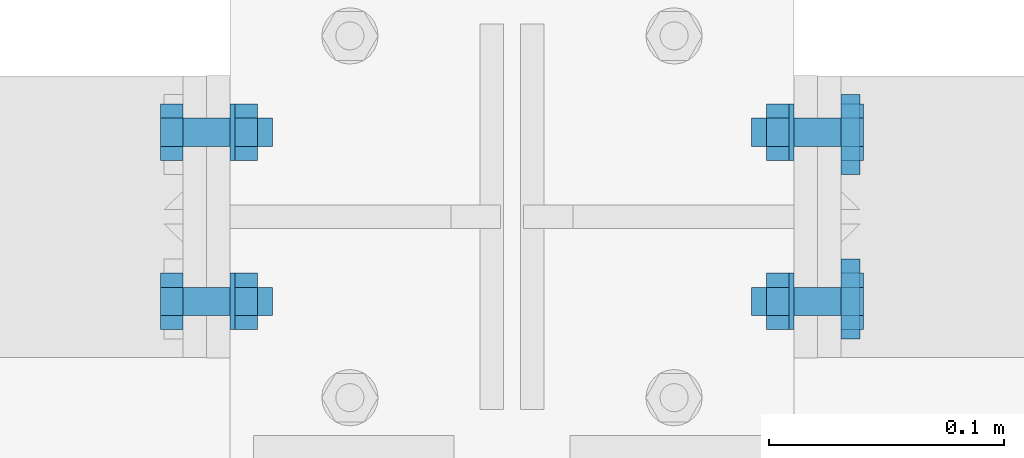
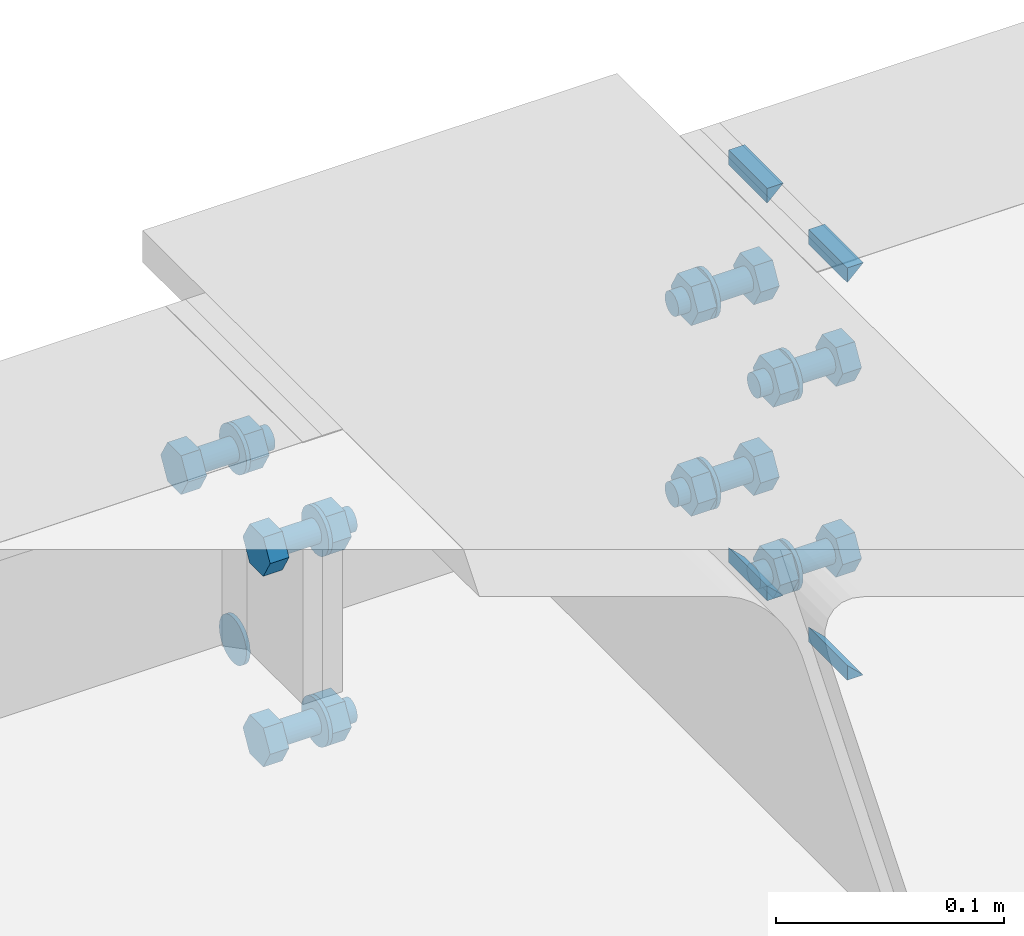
# One storey, part 49 of 66: 29 mechanical fasteners, 8 fasteners.
"""IFC4 building model written with IfcOpenShell, lengths in metres."""

from ifc_helpers import new_model, si_unit, frame, origin_with_axes, place, context, project, spatial, polyline, outline, extrude, type_object, element, save


model = new_model("IFC4")

# Units and contexts
model_context = context("Model", 3, precision=1e-05, world=origin_with_axes())
ifc_project = project(units=[si_unit("LENGTHUNIT", "METRE"), si_unit("AREAUNIT", "SQUARE_METRE"), si_unit("VOLUMEUNIT", "CUBIC_METRE"), si_unit("MASSUNIT", "GRAM", prefix="KILO"), si_unit("TIMEUNIT", "SECOND"), si_unit("PLANEANGLEUNIT", "RADIAN"), si_unit("SOLIDANGLEUNIT", "STERADIAN"), si_unit("THERMODYNAMICTEMPERATUREUNIT", "DEGREE_CELSIUS")], contexts=[model_context])

# Site, building, storey
placement_1 = place(None, origin_with_axes())
site = spatial("IfcSite", under=ifc_project, at=placement_1, Name="Italia", CompositionType="ELEMENT")
building = spatial("IfcBuilding", under=site, at=placement_1, Name="Uffici", CompositionType="ELEMENT")
storey_placement = place(None, frame((0.0, 0.0, 3.299999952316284), z_axis=(0.0, 0.0, 1.0), x_axis=(1.0, 0.0, 0.0)))
storey = spatial("IfcBuildingStorey", under=building, at=storey_placement, Name="Storey 1", CompositionType="ELEMENT", Elevation=3.299999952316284)

# Mechanical fasteners
mechanical_fastener_type_1 = type_object("IfcMechanicalFastenerType", Name="Collegamento 0113_0112", PredefinedType="BOLT")
placement_2 = place(placement_1, origin_with_axes())
mechanical_fastener_1_placement = place(placement_2, origin_with_axes())
element("IfcMechanicalFastener", 1, at=mechanical_fastener_1_placement, inside=storey, type_object=mechanical_fastener_type_1, Name="Collegamento 0113_0112", NominalDiameter=0.024, context=model_context, shape_type="SweptSolid", body=[
    extrude(outline(polyline([(0.0, 0.0), (-0.000409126, -0.00310588), (-0.00160789, -0.00600004), (-0.00351477, -0.00848532), (-0.00600004, -0.0103922), (-0.00889444, -0.0115912), (-0.0120001, -0.0120001), (-0.0151057, -0.0115912), (-0.0180001, -0.0103922), (-0.0204854, -0.00848532), (-0.0223923, -0.00600004), (-0.023591, -0.00310588), (-0.0240002, 0.0), (-0.023591, 0.00310588), (-0.0223923, 0.00600004), (-0.0204854, 0.00848532), (-0.0180001, 0.0103922), (-0.0151057, 0.0115912), (-0.0120001, 0.0120001), (-0.00889444, 0.0115912), (-0.00600004, 0.0103922), (-0.00351477, 0.00848532), (-0.00160789, 0.00600004), (-0.000409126, 0.00310588), (0.0, 0.0)])), frame((6.637, 5.414, 3.129), z_axis=(-1.0, 0.0, 0.0), x_axis=(0.0, -1.0, 0.0)), (0.0, 0.0, 1.0), 0.00199986),
])
mechanical_fastener_type_2 = type_object("IfcMechanicalFastenerType", Name="Collegamento 0113_0112", PredefinedType="BOLT")
mechanical_fastener_2_placement = place(placement_2, origin_with_axes())
element("IfcMechanicalFastener", 2, at=mechanical_fastener_2_placement, inside=storey, type_object=mechanical_fastener_type_2, Name="Collegamento 0113_0112", NominalDiameter=0.0119996, context=model_context, shape_type="SweptSolid", body=[
    extrude(outline(polyline([(0.0, 0.0), (-0.0119996, 0.0), (-0.0179996, 0.0103922), (-0.0119996, 0.0207846), (0.0, 0.0207846), (0.00600004, 0.0103922), (0.0, 0.0)])), frame((6.615, 5.348, 3.11861), z_axis=(-1.0, 0.0, 0.0), x_axis=(0.0, -1.0, 0.0)), (0.0, 0.0, 1.0), 0.00960016),
])
mechanical_fastener_type_3 = type_object("IfcMechanicalFastenerType", Name="Collegamento 0113_0112", PredefinedType="BOLT")
mechanical_fastener_3_placement = place(placement_2, origin_with_axes())
element("IfcMechanicalFastener", 3, at=mechanical_fastener_3_placement, inside=storey, type_object=mechanical_fastener_type_3, Name="Collegamento 0113_0112", NominalDiameter=0.012, context=model_context, shape_type="SweptSolid", body=[
    extrude(outline(polyline([(0.0, 0.0), (-0.000204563, -0.00155282), (-0.000803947, -0.00300002), (-0.00175762, -0.00424266), (-0.00300026, -0.00519609), (-0.00444698, -0.00579548), (-0.00600004, -0.00600004), (-0.0075531, -0.00579548), (-0.00899982, -0.00519609), (-0.0102425, -0.00424266), (-0.0111961, -0.00300002), (-0.0117955, -0.00155282), (-0.0120001, 0.0), (-0.0117955, 0.00155282), (-0.0111961, 0.00300002), (-0.0102425, 0.00424266), (-0.00899982, 0.00519609), (-0.0075531, 0.00579548), (-0.00600004, 0.00600004), (-0.00444698, 0.00579548), (-0.00300026, 0.00519609), (-0.00175762, 0.00424266), (-0.000803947, 0.00300002), (-0.000204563, 0.00155282), (0.0, 0.0)])), frame((6.653, 5.348, 3.129), z_axis=(-1.0, 0.0, 0.0), x_axis=(0.0, -1.0, 0.0)), (0.0, 0.0, 1.0), 0.0380001),
])
mechanical_fastener_type_4 = type_object("IfcMechanicalFastenerType", Name="Collegamento 0113_0112", PredefinedType="BOLT")
mechanical_fastener_4_placement = place(placement_2, origin_with_axes())
element("IfcMechanicalFastener", 4, at=mechanical_fastener_4_placement, inside=storey, type_object=mechanical_fastener_type_4, Name="Collegamento 0113_0112", NominalDiameter=0.0119996, context=model_context, shape_type="SweptSolid", body=[
    extrude(outline(polyline([(0.0, 0.0), (-0.0119996, 0.0), (-0.0179996, 0.0103922), (-0.0119996, 0.0207846), (0.0, 0.0207846), (0.00600004, 0.0103922), (0.0, 0.0)])), frame((6.6466, 5.348, 3.11861), z_axis=(-1.0, 0.0, 0.0), x_axis=(0.0, -1.0, 0.0)), (0.0, 0.0, 1.0), 0.00960016),
])
mechanical_fastener_type_5 = type_object("IfcMechanicalFastenerType", Name="Collegamento 0113_0112", PredefinedType="BOLT")
mechanical_fastener_5_placement = place(placement_2, origin_with_axes())
element("IfcMechanicalFastener", 5, at=mechanical_fastener_5_placement, inside=storey, type_object=mechanical_fastener_type_5, Name="Collegamento 0113_0112", NominalDiameter=0.024, context=model_context, shape_type="SweptSolid", body=[
    extrude(outline(polyline([(0.0, 0.0), (-0.000409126, -0.00310588), (-0.00160789, -0.00600004), (-0.00351477, -0.00848532), (-0.00600004, -0.0103922), (-0.00889444, -0.0115912), (-0.0120001, -0.0120001), (-0.0151057, -0.0115912), (-0.0180001, -0.0103922), (-0.0204854, -0.00848532), (-0.0223923, -0.00600004), (-0.023591, -0.00310588), (-0.0240002, 0.0), (-0.023591, 0.00310588), (-0.0223923, 0.00600004), (-0.0204854, 0.00848532), (-0.0180001, 0.0103922), (-0.0151057, 0.0115912), (-0.0120001, 0.0120001), (-0.00889444, 0.0115912), (-0.00600004, 0.0103922), (-0.00351477, 0.00848532), (-0.00160789, 0.00600004), (-0.000409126, 0.00310588), (0.0, 0.0)])), frame((6.637, 5.342, 3.129), z_axis=(-1.0, 0.0, 0.0), x_axis=(0.0, -1.0, 0.0)), (0.0, 0.0, 1.0), 0.00199986),
])
mechanical_fastener_type_6 = type_object("IfcMechanicalFastenerType", Name="Collegamento 0113_0112", PredefinedType="BOLT")
mechanical_fastener_6_placement = place(placement_2, origin_with_axes())
element("IfcMechanicalFastener", 6, at=mechanical_fastener_6_placement, inside=storey, type_object=mechanical_fastener_type_6, Name="Collegamento 0113_0112", NominalDiameter=0.0119996, context=model_context, shape_type="SweptSolid", body=[
    extrude(outline(polyline([(0.0, 0.0), (-0.0119996, 0.0), (-0.0179996, 0.0103924), (-0.0119996, 0.0207846), (0.0, 0.0207846), (0.00600004, 0.0103924), (0.0, 0.0)])), frame((6.615, 5.42, 3.22061), z_axis=(-1.0, 0.0, 0.0), x_axis=(0.0, -1.0, 0.0)), (0.0, 0.0, 1.0), 0.00960016),
])
mechanical_fastener_type_7 = type_object("IfcMechanicalFastenerType", Name="Collegamento 0113_0112", PredefinedType="BOLT")
mechanical_fastener_7_placement = place(placement_2, origin_with_axes())
element("IfcMechanicalFastener", 7, at=mechanical_fastener_7_placement, inside=storey, type_object=mechanical_fastener_type_7, Name="Collegamento 0113_0112", NominalDiameter=0.012, context=model_context, shape_type="SweptSolid", body=[
    extrude(outline(polyline([(0.0, 0.0), (-0.000204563, -0.00155282), (-0.000803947, -0.00300002), (-0.00175762, -0.00424266), (-0.00300026, -0.00519609), (-0.00444698, -0.00579548), (-0.00600004, -0.00600004), (-0.0075531, -0.00579548), (-0.00899982, -0.00519609), (-0.0102425, -0.00424266), (-0.0111961, -0.00300002), (-0.0117955, -0.00155282), (-0.0120001, 0.0), (-0.0117955, 0.00155282), (-0.0111961, 0.00300002), (-0.0102425, 0.00424266), (-0.00899982, 0.00519609), (-0.0075531, 0.00579548), (-0.00600004, 0.00600004), (-0.00444698, 0.00579548), (-0.00300026, 0.00519609), (-0.00175762, 0.00424266), (-0.000803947, 0.00300002), (-0.000204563, 0.00155282), (0.0, 0.0)])), frame((6.653, 5.42, 3.231), z_axis=(-1.0, 0.0, 0.0), x_axis=(0.0, -1.0, 0.0)), (0.0, 0.0, 1.0), 0.0380001),
])
mechanical_fastener_type_8 = type_object("IfcMechanicalFastenerType", Name="Collegamento 0113_0112", PredefinedType="BOLT")
mechanical_fastener_8_placement = place(placement_2, origin_with_axes())
element("IfcMechanicalFastener", 8, at=mechanical_fastener_8_placement, inside=storey, type_object=mechanical_fastener_type_8, Name="Collegamento 0113_0112", NominalDiameter=0.0119996, context=model_context, shape_type="SweptSolid", body=[
    extrude(outline(polyline([(0.0, 0.0), (-0.0119996, 0.0), (-0.0179996, 0.0103924), (-0.0119996, 0.0207846), (0.0, 0.0207846), (0.00600004, 0.0103924), (0.0, 0.0)])), frame((6.6466, 5.42, 3.22061), z_axis=(-1.0, 0.0, 0.0), x_axis=(0.0, -1.0, 0.0)), (0.0, 0.0, 1.0), 0.00960016),
])
mechanical_fastener_type_9 = type_object("IfcMechanicalFastenerType", Name="Collegamento 0113_0112", PredefinedType="BOLT")
mechanical_fastener_9_placement = place(placement_2, origin_with_axes())
element("IfcMechanicalFastener", 9, at=mechanical_fastener_9_placement, inside=storey, type_object=mechanical_fastener_type_9, Name="Collegamento 0113_0112", NominalDiameter=0.024, context=model_context, shape_type="SweptSolid", body=[
    extrude(outline(polyline([(0.0, 0.0), (-0.000409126, -0.00310588), (-0.00160789, -0.00600004), (-0.00351477, -0.00848532), (-0.00600004, -0.0103922), (-0.00889444, -0.0115912), (-0.0120001, -0.0120001), (-0.0151057, -0.0115912), (-0.0180001, -0.0103922), (-0.0204854, -0.00848532), (-0.0223923, -0.00600004), (-0.023591, -0.00310588), (-0.0240002, 0.0), (-0.023591, 0.00310588), (-0.0223923, 0.00600004), (-0.0204854, 0.00848532), (-0.0180001, 0.0103922), (-0.0151057, 0.0115912), (-0.0120001, 0.0120001), (-0.00889444, 0.0115912), (-0.00600004, 0.0103922), (-0.00351477, 0.00848532), (-0.00160789, 0.00600004), (-0.000409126, 0.00310588), (0.0, 0.0)])), frame((6.637, 5.414, 3.231), z_axis=(-1.0, 0.0, 0.0), x_axis=(0.0, -1.0, 0.0)), (0.0, 0.0, 1.0), 0.00199986),
])
mechanical_fastener_type_10 = type_object("IfcMechanicalFastenerType", Name="Collegamento 0113_0112", PredefinedType="BOLT")
mechanical_fastener_10_placement = place(placement_2, origin_with_axes())
element("IfcMechanicalFastener", 10, at=mechanical_fastener_10_placement, inside=storey, type_object=mechanical_fastener_type_10, Name="Collegamento 0113_0112", NominalDiameter=0.0119996, context=model_context, shape_type="SweptSolid", body=[
    extrude(outline(polyline([(0.0, 0.0), (-0.0119996, 0.0), (-0.0179996, 0.0103924), (-0.0119996, 0.0207846), (0.0, 0.0207846), (0.00600004, 0.0103924), (0.0, 0.0)])), frame((6.615, 5.348, 3.22061), z_axis=(-1.0, 0.0, 0.0), x_axis=(0.0, -1.0, 0.0)), (0.0, 0.0, 1.0), 0.00960016),
])
mechanical_fastener_type_11 = type_object("IfcMechanicalFastenerType", Name="Collegamento 0113_0112", PredefinedType="BOLT")
mechanical_fastener_11_placement = place(placement_2, origin_with_axes())
element("IfcMechanicalFastener", 11, at=mechanical_fastener_11_placement, inside=storey, type_object=mechanical_fastener_type_11, Name="Collegamento 0113_0112", NominalDiameter=0.012, context=model_context, shape_type="SweptSolid", body=[
    extrude(outline(polyline([(0.0, 0.0), (-0.000204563, -0.00155282), (-0.000803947, -0.00300002), (-0.00175762, -0.00424266), (-0.00300026, -0.00519609), (-0.00444698, -0.00579548), (-0.00600004, -0.00600004), (-0.0075531, -0.00579548), (-0.00899982, -0.00519609), (-0.0102425, -0.00424266), (-0.0111961, -0.00300002), (-0.0117955, -0.00155282), (-0.0120001, 0.0), (-0.0117955, 0.00155282), (-0.0111961, 0.00300002), (-0.0102425, 0.00424266), (-0.00899982, 0.00519609), (-0.0075531, 0.00579548), (-0.00600004, 0.00600004), (-0.00444698, 0.00579548), (-0.00300026, 0.00519609), (-0.00175762, 0.00424266), (-0.000803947, 0.00300002), (-0.000204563, 0.00155282), (0.0, 0.0)])), frame((6.653, 5.348, 3.231), z_axis=(-1.0, 0.0, 0.0), x_axis=(0.0, -1.0, 0.0)), (0.0, 0.0, 1.0), 0.0380001),
])
mechanical_fastener_type_12 = type_object("IfcMechanicalFastenerType", Name="Collegamento 0113_0112", PredefinedType="BOLT")
mechanical_fastener_12_placement = place(placement_2, origin_with_axes())
element("IfcMechanicalFastener", 12, at=mechanical_fastener_12_placement, inside=storey, type_object=mechanical_fastener_type_12, Name="Collegamento 0113_0112", NominalDiameter=0.0119996, context=model_context, shape_type="SweptSolid", body=[
    extrude(outline(polyline([(0.0, 0.0), (-0.0119996, 0.0), (-0.0179996, 0.0103924), (-0.0119996, 0.0207846), (0.0, 0.0207846), (0.00600004, 0.0103924), (0.0, 0.0)])), frame((6.6466, 5.348, 3.22061), z_axis=(-1.0, 0.0, 0.0), x_axis=(0.0, -1.0, 0.0)), (0.0, 0.0, 1.0), 0.00960016),
])
mechanical_fastener_type_13 = type_object("IfcMechanicalFastenerType", Name="Collegamento 0113_0112", PredefinedType="BOLT")
mechanical_fastener_13_placement = place(placement_2, origin_with_axes())
element("IfcMechanicalFastener", 13, at=mechanical_fastener_13_placement, inside=storey, type_object=mechanical_fastener_type_13, Name="Collegamento 0113_0112", NominalDiameter=0.024, context=model_context, shape_type="SweptSolid", body=[
    extrude(outline(polyline([(0.0, 0.0), (-0.000409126, -0.00310588), (-0.00160789, -0.00600004), (-0.00351477, -0.00848532), (-0.00600004, -0.0103922), (-0.00889444, -0.0115912), (-0.0120001, -0.0120001), (-0.0151057, -0.0115912), (-0.0180001, -0.0103922), (-0.0204854, -0.00848532), (-0.0223923, -0.00600004), (-0.023591, -0.00310588), (-0.0240002, 0.0), (-0.023591, 0.00310588), (-0.0223923, 0.00600004), (-0.0204854, 0.00848532), (-0.0180001, 0.0103922), (-0.0151057, 0.0115912), (-0.0120001, 0.0120001), (-0.00889444, 0.0115912), (-0.00600004, 0.0103922), (-0.00351477, 0.00848532), (-0.00160789, 0.00600004), (-0.000409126, 0.00310588), (0.0, 0.0)])), frame((6.637, 5.342, 3.231), z_axis=(-1.0, 0.0, 0.0), x_axis=(0.0, -1.0, 0.0)), (0.0, 0.0, 1.0), 0.00199986),
])

# Fasteners
fastener_type_1 = type_object("IfcFastenerType", Name="Collegamento 0113_0114", PredefinedType="WELD")
fastener_1_placement = place(placement_2, origin_with_axes())
element("IfcFastener", 14, at=fastener_1_placement, inside=storey, type_object=fastener_type_1, Name="Collegamento 0113_0114", context=model_context, shape_type="SweptSolid", body=[
    extrude(outline(polyline([(0.0, 0.0), (-0.00817347, 0.00792813), (0.0, 0.00792813), (0.0, 0.0)])), frame((6.89495, 5.33795, 3.28232), z_axis=(0.0, 1.0, 0.0), x_axis=(-1.0, 0.0, 0.0)), (0.0, 0.0, 1.0), 0.0340004),
])
fastener_type_2 = type_object("IfcFastenerType", Name="Collegamento 0113_0114", PredefinedType="WELD")
fastener_2_placement = place(placement_2, origin_with_axes())
element("IfcFastener", 15, at=fastener_2_placement, inside=storey, type_object=fastener_type_2, Name="Collegamento 0113_0114", context=model_context, shape_type="SweptSolid", body=[
    extrude(outline(polyline([(0.0, 0.0), (0.00817347, -0.00792813), (0.0, -0.00792813), (0.0, 0.0)])), frame((6.89495, 5.37195, 3.07768), z_axis=(0.0, -1.0, 0.0), x_axis=(1.0, 0.0, 0.0)), (0.0, 0.0, 1.0), 0.0340004),
])
fastener_type_3 = type_object("IfcFastenerType", Name="Collegamento 0113_0114", PredefinedType="WELD")
fastener_3_placement = place(placement_2, origin_with_axes())
element("IfcFastener", 16, at=fastener_3_placement, inside=storey, type_object=fastener_type_3, Name="Collegamento 0113_0114", context=model_context, shape_type="SweptSolid", body=[
    extrude(outline(polyline([(0.0, 0.0), (0.00817347, -0.00792813), (0.0, -0.00792813), (0.0, 0.0)])), frame((6.89495, 5.44205, 3.07768), z_axis=(0.0, -1.0, 0.0), x_axis=(1.0, 0.0, 0.0)), (0.0, 0.0, 1.0), 0.0340004),
])
fastener_type_4 = type_object("IfcFastenerType", Name="Collegamento 0113_0114", PredefinedType="WELD")
fastener_4_placement = place(placement_2, origin_with_axes())
element("IfcFastener", 17, at=fastener_4_placement, inside=storey, type_object=fastener_type_4, Name="Collegamento 0113_0114", context=model_context, shape_type="SweptSolid", body=[
    extrude(outline(polyline([(0.0, 0.0), (-0.00817347, 0.00792813), (0.0, 0.00792813), (0.0, 0.0)])), frame((6.89495, 5.40805, 3.28232), z_axis=(0.0, 1.0, 0.0), x_axis=(-1.0, 0.0, 0.0)), (0.0, 0.0, 1.0), 0.0340004),
])
fastener_type_5 = type_object("IfcFastenerType", Name="Collegamento 0113_0114", PredefinedType="WELD")
fastener_5_placement = place(placement_2, origin_with_axes())
element("IfcFastener", 18, at=fastener_5_placement, inside=storey, type_object=fastener_type_5, Name="Collegamento 0113_0114", context=model_context, shape_type="SweptSolid", body=[
    extrude(outline(polyline([(0.0, 0.0), (-0.00817347, 0.00792813), (0.0, 0.00792813), (0.0, 0.0)])), frame((6.89495, 5.33795, 3.28232), z_axis=(0.0, 1.0, 0.0), x_axis=(-1.0, 0.0, 0.0)), (0.0, 0.0, 1.0), 0.0340004),
])
fastener_type_6 = type_object("IfcFastenerType", Name="Collegamento 0113_0114", PredefinedType="WELD")
fastener_6_placement = place(placement_2, origin_with_axes())
element("IfcFastener", 19, at=fastener_6_placement, inside=storey, type_object=fastener_type_6, Name="Collegamento 0113_0114", context=model_context, shape_type="SweptSolid", body=[
    extrude(outline(polyline([(0.0, 0.0), (0.00817347, -0.00792813), (0.0, -0.00792813), (0.0, 0.0)])), frame((6.89495, 5.37195, 3.07768), z_axis=(0.0, -1.0, 0.0), x_axis=(1.0, 0.0, 0.0)), (0.0, 0.0, 1.0), 0.0340004),
])
fastener_type_7 = type_object("IfcFastenerType", Name="Collegamento 0113_0114", PredefinedType="WELD")
fastener_7_placement = place(placement_2, origin_with_axes())
element("IfcFastener", 20, at=fastener_7_placement, inside=storey, type_object=fastener_type_7, Name="Collegamento 0113_0114", context=model_context, shape_type="SweptSolid", body=[
    extrude(outline(polyline([(0.0, 0.0), (0.00817347, -0.00792813), (0.0, -0.00792813), (0.0, 0.0)])), frame((6.89495, 5.44205, 3.07768), z_axis=(0.0, -1.0, 0.0), x_axis=(1.0, 0.0, 0.0)), (0.0, 0.0, 1.0), 0.0340004),
])
fastener_type_8 = type_object("IfcFastenerType", Name="Collegamento 0113_0114", PredefinedType="WELD")
fastener_8_placement = place(placement_2, origin_with_axes())
element("IfcFastener", 21, at=fastener_8_placement, inside=storey, type_object=fastener_type_8, Name="Collegamento 0113_0114", context=model_context, shape_type="SweptSolid", body=[
    extrude(outline(polyline([(0.0, 0.0), (-0.00817347, 0.00792813), (0.0, 0.00792813), (0.0, 0.0)])), frame((6.89495, 5.40805, 3.28232), z_axis=(0.0, 1.0, 0.0), x_axis=(-1.0, 0.0, 0.0)), (0.0, 0.0, 1.0), 0.0340004),
])

# Mechanical fasteners
mechanical_fastener_type_14 = type_object("IfcMechanicalFastenerType", Name="Collegamento 0113_0114", PredefinedType="BOLT")
mechanical_fastener_14_placement = place(placement_2, origin_with_axes())
element("IfcMechanicalFastener", 22, at=mechanical_fastener_14_placement, inside=storey, type_object=mechanical_fastener_type_14, Name="Collegamento 0113_0114", NominalDiameter=0.0119996, context=model_context, shape_type="SweptSolid", body=[
    extrude(outline(polyline([(0.0, 0.0), (-0.0119996, 0.0), (-0.0179996, 0.0103922), (-0.0119996, 0.0207846), (0.0, 0.0207846), (0.00600004, 0.0103922), (0.0, 0.0)])), frame((6.895, 5.36, 3.11861), z_axis=(1.0, 0.0, 0.0), x_axis=(0.0, 1.0, 0.0)), (0.0, 0.0, 1.0), 0.00960016),
])
mechanical_fastener_type_15 = type_object("IfcMechanicalFastenerType", Name="Collegamento 0113_0114", PredefinedType="BOLT")
mechanical_fastener_15_placement = place(placement_2, origin_with_axes())
element("IfcMechanicalFastener", 23, at=mechanical_fastener_15_placement, inside=storey, type_object=mechanical_fastener_type_15, Name="Collegamento 0113_0114", NominalDiameter=0.012, context=model_context, shape_type="SweptSolid", body=[
    extrude(outline(polyline([(0.0, 0.0), (-0.000204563, -0.00155282), (-0.000803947, -0.00300002), (-0.00175762, -0.00424266), (-0.00300026, -0.00519609), (-0.00444698, -0.00579548), (-0.00600004, -0.00600004), (-0.0075531, -0.00579548), (-0.00899982, -0.00519609), (-0.0102425, -0.00424266), (-0.0111961, -0.00300002), (-0.0117955, -0.00155282), (-0.0120001, 0.0), (-0.0117955, 0.00155282), (-0.0111961, 0.00300002), (-0.0102425, 0.00424266), (-0.00899982, 0.00519609), (-0.0075531, 0.00579548), (-0.00600004, 0.00600004), (-0.00444698, 0.00579548), (-0.00300026, 0.00519609), (-0.00175762, 0.00424266), (-0.000803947, 0.00300002), (-0.000204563, 0.00155282), (0.0, 0.0)])), frame((6.857, 5.36, 3.129), z_axis=(1.0, 0.0, 0.0), x_axis=(0.0, 1.0, 0.0)), (0.0, 0.0, 1.0), 0.0380001),
])
mechanical_fastener_type_16 = type_object("IfcMechanicalFastenerType", Name="Collegamento 0113_0114", PredefinedType="BOLT")
mechanical_fastener_16_placement = place(placement_2, origin_with_axes())
element("IfcMechanicalFastener", 24, at=mechanical_fastener_16_placement, inside=storey, type_object=mechanical_fastener_type_16, Name="Collegamento 0113_0114", NominalDiameter=0.0119996, context=model_context, shape_type="SweptSolid", body=[
    extrude(outline(polyline([(0.0, 0.0), (-0.0119996, 0.0), (-0.0179996, 0.0103922), (-0.0119996, 0.0207846), (0.0, 0.0207846), (0.00600004, 0.0103922), (0.0, 0.0)])), frame((6.8634, 5.36, 3.11861), z_axis=(1.0, 0.0, 0.0), x_axis=(0.0, 1.0, 0.0)), (0.0, 0.0, 1.0), 0.00960016),
])
mechanical_fastener_type_17 = type_object("IfcMechanicalFastenerType", Name="Collegamento 0113_0114", PredefinedType="BOLT")
mechanical_fastener_17_placement = place(placement_2, origin_with_axes())
element("IfcMechanicalFastener", 25, at=mechanical_fastener_17_placement, inside=storey, type_object=mechanical_fastener_type_17, Name="Collegamento 0113_0114", NominalDiameter=0.024, context=model_context, shape_type="SweptSolid", body=[
    extrude(outline(polyline([(0.0, 0.0), (-0.000409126, -0.00310588), (-0.00160789, -0.00600004), (-0.00351477, -0.00848532), (-0.00600004, -0.0103922), (-0.00889444, -0.0115912), (-0.0120001, -0.0120001), (-0.0151057, -0.0115912), (-0.0180001, -0.0103922), (-0.0204854, -0.00848532), (-0.0223923, -0.00600004), (-0.023591, -0.00310588), (-0.0240002, 0.0), (-0.023591, 0.00310588), (-0.0223923, 0.00600004), (-0.0204854, 0.00848532), (-0.0180001, 0.0103922), (-0.0151057, 0.0115912), (-0.0120001, 0.0120001), (-0.00889444, 0.0115912), (-0.00600004, 0.0103922), (-0.00351477, 0.00848532), (-0.00160789, 0.00600004), (-0.000409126, 0.00310588), (0.0, 0.0)])), frame((6.873, 5.366, 3.129), z_axis=(1.0, 0.0, 0.0), x_axis=(0.0, 1.0, 0.0)), (0.0, 0.0, 1.0), 0.00199986),
])
mechanical_fastener_type_18 = type_object("IfcMechanicalFastenerType", Name="Collegamento 0113_0114", PredefinedType="BOLT")
mechanical_fastener_18_placement = place(placement_2, origin_with_axes())
element("IfcMechanicalFastener", 26, at=mechanical_fastener_18_placement, inside=storey, type_object=mechanical_fastener_type_18, Name="Collegamento 0113_0114", NominalDiameter=0.0119996, context=model_context, shape_type="SweptSolid", body=[
    extrude(outline(polyline([(0.0, 0.0), (-0.0119996, 0.0), (-0.0179996, 0.0103922), (-0.0119996, 0.0207846), (0.0, 0.0207846), (0.00600004, 0.0103922), (0.0, 0.0)])), frame((6.895, 5.432, 3.11861), z_axis=(1.0, 0.0, 0.0), x_axis=(0.0, 1.0, 0.0)), (0.0, 0.0, 1.0), 0.00960016),
])
mechanical_fastener_type_19 = type_object("IfcMechanicalFastenerType", Name="Collegamento 0113_0114", PredefinedType="BOLT")
mechanical_fastener_19_placement = place(placement_2, origin_with_axes())
element("IfcMechanicalFastener", 27, at=mechanical_fastener_19_placement, inside=storey, type_object=mechanical_fastener_type_19, Name="Collegamento 0113_0114", NominalDiameter=0.012, context=model_context, shape_type="SweptSolid", body=[
    extrude(outline(polyline([(0.0, 0.0), (-0.000204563, -0.00155282), (-0.000803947, -0.00300002), (-0.00175762, -0.00424266), (-0.00300026, -0.00519609), (-0.00444698, -0.00579548), (-0.00600004, -0.00600004), (-0.0075531, -0.00579548), (-0.00899982, -0.00519609), (-0.0102425, -0.00424266), (-0.0111961, -0.00300002), (-0.0117955, -0.00155282), (-0.0120001, 0.0), (-0.0117955, 0.00155282), (-0.0111961, 0.00300002), (-0.0102425, 0.00424266), (-0.00899982, 0.00519609), (-0.0075531, 0.00579548), (-0.00600004, 0.00600004), (-0.00444698, 0.00579548), (-0.00300026, 0.00519609), (-0.00175762, 0.00424266), (-0.000803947, 0.00300002), (-0.000204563, 0.00155282), (0.0, 0.0)])), frame((6.857, 5.432, 3.129), z_axis=(1.0, 0.0, 0.0), x_axis=(0.0, 1.0, 0.0)), (0.0, 0.0, 1.0), 0.0380001),
])
mechanical_fastener_type_20 = type_object("IfcMechanicalFastenerType", Name="Collegamento 0113_0114", PredefinedType="BOLT")
mechanical_fastener_20_placement = place(placement_2, origin_with_axes())
element("IfcMechanicalFastener", 28, at=mechanical_fastener_20_placement, inside=storey, type_object=mechanical_fastener_type_20, Name="Collegamento 0113_0114", NominalDiameter=0.0119996, context=model_context, shape_type="SweptSolid", body=[
    extrude(outline(polyline([(0.0, 0.0), (-0.0119996, 0.0), (-0.0179996, 0.0103922), (-0.0119996, 0.0207846), (0.0, 0.0207846), (0.00600004, 0.0103922), (0.0, 0.0)])), frame((6.8634, 5.432, 3.11861), z_axis=(1.0, 0.0, 0.0), x_axis=(0.0, 1.0, 0.0)), (0.0, 0.0, 1.0), 0.00960016),
])
mechanical_fastener_type_21 = type_object("IfcMechanicalFastenerType", Name="Collegamento 0113_0114", PredefinedType="BOLT")
mechanical_fastener_21_placement = place(placement_2, origin_with_axes())
element("IfcMechanicalFastener", 29, at=mechanical_fastener_21_placement, inside=storey, type_object=mechanical_fastener_type_21, Name="Collegamento 0113_0114", NominalDiameter=0.024, context=model_context, shape_type="SweptSolid", body=[
    extrude(outline(polyline([(0.0, 0.0), (-0.000409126, -0.00310588), (-0.00160789, -0.00600004), (-0.00351477, -0.00848532), (-0.00600004, -0.0103922), (-0.00889444, -0.0115912), (-0.0120001, -0.0120001), (-0.0151057, -0.0115912), (-0.0180001, -0.0103922), (-0.0204854, -0.00848532), (-0.0223923, -0.00600004), (-0.023591, -0.00310588), (-0.0240002, 0.0), (-0.023591, 0.00310588), (-0.0223923, 0.00600004), (-0.0204854, 0.00848532), (-0.0180001, 0.0103922), (-0.0151057, 0.0115912), (-0.0120001, 0.0120001), (-0.00889444, 0.0115912), (-0.00600004, 0.0103922), (-0.00351477, 0.00848532), (-0.00160789, 0.00600004), (-0.000409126, 0.00310588), (0.0, 0.0)])), frame((6.873, 5.438, 3.129), z_axis=(1.0, 0.0, 0.0), x_axis=(0.0, 1.0, 0.0)), (0.0, 0.0, 1.0), 0.00199986),
])
mechanical_fastener_type_22 = type_object("IfcMechanicalFastenerType", Name="Collegamento 0113_0114", PredefinedType="BOLT")
mechanical_fastener_22_placement = place(placement_2, origin_with_axes())
element("IfcMechanicalFastener", 30, at=mechanical_fastener_22_placement, inside=storey, type_object=mechanical_fastener_type_22, Name="Collegamento 0113_0114", NominalDiameter=0.0119996, context=model_context, shape_type="SweptSolid", body=[
    extrude(outline(polyline([(0.0, 0.0), (-0.0119996, 0.0), (-0.0179996, 0.0103924), (-0.0119996, 0.0207846), (0.0, 0.0207846), (0.00600004, 0.0103924), (0.0, 0.0)])), frame((6.895, 5.36, 3.22061), z_axis=(1.0, 0.0, 0.0), x_axis=(0.0, 1.0, 0.0)), (0.0, 0.0, 1.0), 0.00960016),
])
mechanical_fastener_type_23 = type_object("IfcMechanicalFastenerType", Name="Collegamento 0113_0114", PredefinedType="BOLT")
mechanical_fastener_23_placement = place(placement_2, origin_with_axes())
element("IfcMechanicalFastener", 31, at=mechanical_fastener_23_placement, inside=storey, type_object=mechanical_fastener_type_23, Name="Collegamento 0113_0114", NominalDiameter=0.012, context=model_context, shape_type="SweptSolid", body=[
    extrude(outline(polyline([(0.0, 0.0), (-0.000204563, -0.00155282), (-0.000803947, -0.00300002), (-0.00175762, -0.00424266), (-0.00300026, -0.00519609), (-0.00444698, -0.00579548), (-0.00600004, -0.00600004), (-0.0075531, -0.00579548), (-0.00899982, -0.00519609), (-0.0102425, -0.00424266), (-0.0111961, -0.00300002), (-0.0117955, -0.00155282), (-0.0120001, 0.0), (-0.0117955, 0.00155282), (-0.0111961, 0.00300002), (-0.0102425, 0.00424266), (-0.00899982, 0.00519609), (-0.0075531, 0.00579548), (-0.00600004, 0.00600004), (-0.00444698, 0.00579548), (-0.00300026, 0.00519609), (-0.00175762, 0.00424266), (-0.000803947, 0.00300002), (-0.000204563, 0.00155282), (0.0, 0.0)])), frame((6.857, 5.36, 3.231), z_axis=(1.0, 0.0, 0.0), x_axis=(0.0, 1.0, 0.0)), (0.0, 0.0, 1.0), 0.0380001),
])
mechanical_fastener_type_24 = type_object("IfcMechanicalFastenerType", Name="Collegamento 0113_0114", PredefinedType="BOLT")
mechanical_fastener_24_placement = place(placement_2, origin_with_axes())
element("IfcMechanicalFastener", 32, at=mechanical_fastener_24_placement, inside=storey, type_object=mechanical_fastener_type_24, Name="Collegamento 0113_0114", NominalDiameter=0.0119996, context=model_context, shape_type="SweptSolid", body=[
    extrude(outline(polyline([(0.0, 0.0), (-0.0119996, 0.0), (-0.0179996, 0.0103924), (-0.0119996, 0.0207846), (0.0, 0.0207846), (0.00600004, 0.0103924), (0.0, 0.0)])), frame((6.8634, 5.36, 3.22061), z_axis=(1.0, 0.0, 0.0), x_axis=(0.0, 1.0, 0.0)), (0.0, 0.0, 1.0), 0.00960016),
])
mechanical_fastener_type_25 = type_object("IfcMechanicalFastenerType", Name="Collegamento 0113_0114", PredefinedType="BOLT")
mechanical_fastener_25_placement = place(placement_2, origin_with_axes())
element("IfcMechanicalFastener", 33, at=mechanical_fastener_25_placement, inside=storey, type_object=mechanical_fastener_type_25, Name="Collegamento 0113_0114", NominalDiameter=0.024, context=model_context, shape_type="SweptSolid", body=[
    extrude(outline(polyline([(0.0, 0.0), (-0.000409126, -0.00310588), (-0.00160789, -0.00600004), (-0.00351477, -0.00848532), (-0.00600004, -0.0103922), (-0.00889444, -0.0115912), (-0.0120001, -0.0120001), (-0.0151057, -0.0115912), (-0.0180001, -0.0103922), (-0.0204854, -0.00848532), (-0.0223923, -0.00600004), (-0.023591, -0.00310588), (-0.0240002, 0.0), (-0.023591, 0.00310588), (-0.0223923, 0.00600004), (-0.0204854, 0.00848532), (-0.0180001, 0.0103922), (-0.0151057, 0.0115912), (-0.0120001, 0.0120001), (-0.00889444, 0.0115912), (-0.00600004, 0.0103922), (-0.00351477, 0.00848532), (-0.00160789, 0.00600004), (-0.000409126, 0.00310588), (0.0, 0.0)])), frame((6.873, 5.366, 3.231), z_axis=(1.0, 0.0, 0.0), x_axis=(0.0, 1.0, 0.0)), (0.0, 0.0, 1.0), 0.00199986),
])
mechanical_fastener_type_26 = type_object("IfcMechanicalFastenerType", Name="Collegamento 0113_0114", PredefinedType="BOLT")
mechanical_fastener_26_placement = place(placement_2, origin_with_axes())
element("IfcMechanicalFastener", 34, at=mechanical_fastener_26_placement, inside=storey, type_object=mechanical_fastener_type_26, Name="Collegamento 0113_0114", NominalDiameter=0.0119996, context=model_context, shape_type="SweptSolid", body=[
    extrude(outline(polyline([(0.0, 0.0), (-0.0119996, 0.0), (-0.0179996, 0.0103924), (-0.0119996, 0.0207846), (0.0, 0.0207846), (0.00600004, 0.0103924), (0.0, 0.0)])), frame((6.895, 5.432, 3.22061), z_axis=(1.0, 0.0, 0.0), x_axis=(0.0, 1.0, 0.0)), (0.0, 0.0, 1.0), 0.00960016),
])
mechanical_fastener_type_27 = type_object("IfcMechanicalFastenerType", Name="Collegamento 0113_0114", PredefinedType="BOLT")
mechanical_fastener_27_placement = place(placement_2, origin_with_axes())
element("IfcMechanicalFastener", 35, at=mechanical_fastener_27_placement, inside=storey, type_object=mechanical_fastener_type_27, Name="Collegamento 0113_0114", NominalDiameter=0.012, context=model_context, shape_type="SweptSolid", body=[
    extrude(outline(polyline([(0.0, 0.0), (-0.000204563, -0.00155282), (-0.000803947, -0.00300002), (-0.00175762, -0.00424266), (-0.00300026, -0.00519609), (-0.00444698, -0.00579548), (-0.00600004, -0.00600004), (-0.0075531, -0.00579548), (-0.00899982, -0.00519609), (-0.0102425, -0.00424266), (-0.0111961, -0.00300002), (-0.0117955, -0.00155282), (-0.0120001, 0.0), (-0.0117955, 0.00155282), (-0.0111961, 0.00300002), (-0.0102425, 0.00424266), (-0.00899982, 0.00519609), (-0.0075531, 0.00579548), (-0.00600004, 0.00600004), (-0.00444698, 0.00579548), (-0.00300026, 0.00519609), (-0.00175762, 0.00424266), (-0.000803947, 0.00300002), (-0.000204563, 0.00155282), (0.0, 0.0)])), frame((6.857, 5.432, 3.231), z_axis=(1.0, 0.0, 0.0), x_axis=(0.0, 1.0, 0.0)), (0.0, 0.0, 1.0), 0.0380001),
])
mechanical_fastener_type_28 = type_object("IfcMechanicalFastenerType", Name="Collegamento 0113_0114", PredefinedType="BOLT")
mechanical_fastener_28_placement = place(placement_2, origin_with_axes())
element("IfcMechanicalFastener", 36, at=mechanical_fastener_28_placement, inside=storey, type_object=mechanical_fastener_type_28, Name="Collegamento 0113_0114", NominalDiameter=0.0119996, context=model_context, shape_type="SweptSolid", body=[
    extrude(outline(polyline([(0.0, 0.0), (-0.0119996, 0.0), (-0.0179996, 0.0103924), (-0.0119996, 0.0207846), (0.0, 0.0207846), (0.00600004, 0.0103924), (0.0, 0.0)])), frame((6.8634, 5.432, 3.22061), z_axis=(1.0, 0.0, 0.0), x_axis=(0.0, 1.0, 0.0)), (0.0, 0.0, 1.0), 0.00960016),
])
mechanical_fastener_type_29 = type_object("IfcMechanicalFastenerType", Name="Collegamento 0113_0114", PredefinedType="BOLT")
mechanical_fastener_29_placement = place(placement_2, origin_with_axes())
element("IfcMechanicalFastener", 37, at=mechanical_fastener_29_placement, inside=storey, type_object=mechanical_fastener_type_29, Name="Collegamento 0113_0114", NominalDiameter=0.024, context=model_context, shape_type="SweptSolid", body=[
    extrude(outline(polyline([(0.0, 0.0), (-0.000409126, -0.00310588), (-0.00160789, -0.00600004), (-0.00351477, -0.00848532), (-0.00600004, -0.0103922), (-0.00889444, -0.0115912), (-0.0120001, -0.0120001), (-0.0151057, -0.0115912), (-0.0180001, -0.0103922), (-0.0204854, -0.00848532), (-0.0223923, -0.00600004), (-0.023591, -0.00310588), (-0.0240002, 0.0), (-0.023591, 0.00310588), (-0.0223923, 0.00600004), (-0.0204854, 0.00848532), (-0.0180001, 0.0103922), (-0.0151057, 0.0115912), (-0.0120001, 0.0120001), (-0.00889444, 0.0115912), (-0.00600004, 0.0103922), (-0.00351477, 0.00848532), (-0.00160789, 0.00600004), (-0.000409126, 0.00310588), (0.0, 0.0)])), frame((6.873, 5.438, 3.231), z_axis=(1.0, 0.0, 0.0), x_axis=(0.0, 1.0, 0.0)), (0.0, 0.0, 1.0), 0.00199986),
])

save(model, "model.ifc")
